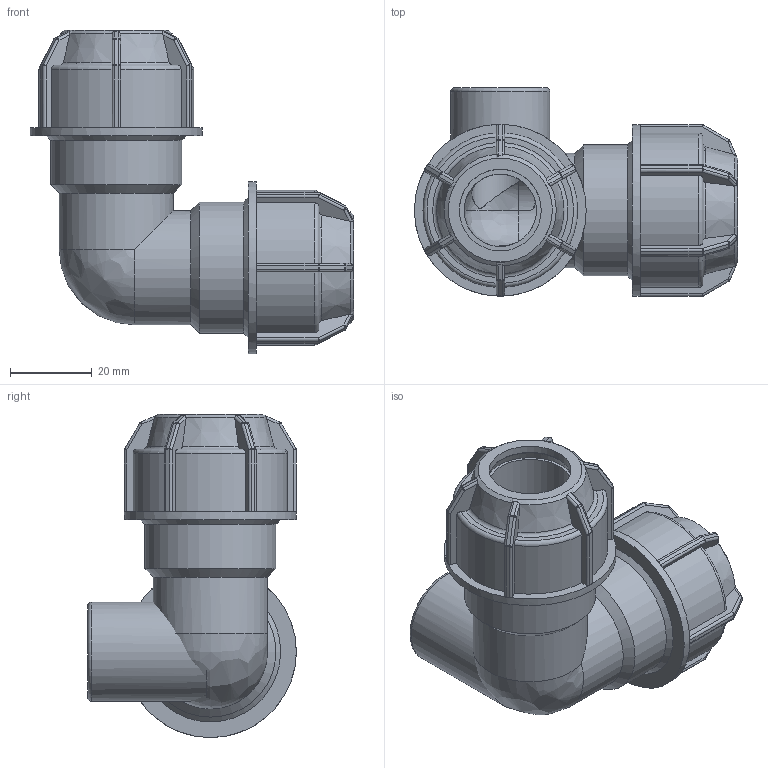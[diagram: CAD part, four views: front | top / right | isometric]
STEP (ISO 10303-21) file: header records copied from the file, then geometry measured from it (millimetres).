
FILE_DESCRIPTION(/* description */ ('PLASSON L.14 CORNER TEE ELBOW FEMALE (SILVER) 20-1/2"-20'),/* implementation_level */ '2;1');
FILE_NAME(/* name */ 'C:\Dropbox\KIMPROJECTS-Inventor\99-16-3568-Processing\Silver+MF ISRAEL\146500\146500020005.ipt.stp',/* time_stamp */ '2018-04-09T13:05:13+03:00',/* author */ ('KIM'),/* organization */ (''),/* preprocessor_version */ 'ST-DEVELOPER v15.6',/* originating_system */ 'Autodesk Inventor 2015',/* authorisation */ '');
FILE_SCHEMA (('AUTOMOTIVE_DESIGN { 1 0 10303 214 3 1 1 }'));
Length unit declared in the file: millimetre
Products named in the file (1): 146500020005
Bounding box: 79 x 51 x 79 mm (x, y, z)
Volume: 67321.7 mm3; surface area: 26629.1 mm2
Topology: 2 solids, 2 shells, 425 faces, 1014 edges, 584 vertices
Faces by surface type: plane 198, cylinder 128, sphere 48, torus 30, cone 18, bspline 3
Full cylindrical faces by diameter (mm): 13.973 x2, 17.699 x2, 18.631 x1, 20 x4, 24.22 x1, 27.947 x2, 32 x2, 42 x2
Entity records: 12473 total; most frequent: CARTESIAN_POINT 3347, DIRECTION 1912, ORIENTED_EDGE 1882, EDGE_CURVE 941, AXIS2_PLACEMENT_3D 773, VERTEX_POINT 557, EDGE_LOOP 456, FACE_OUTER_BOUND 419
